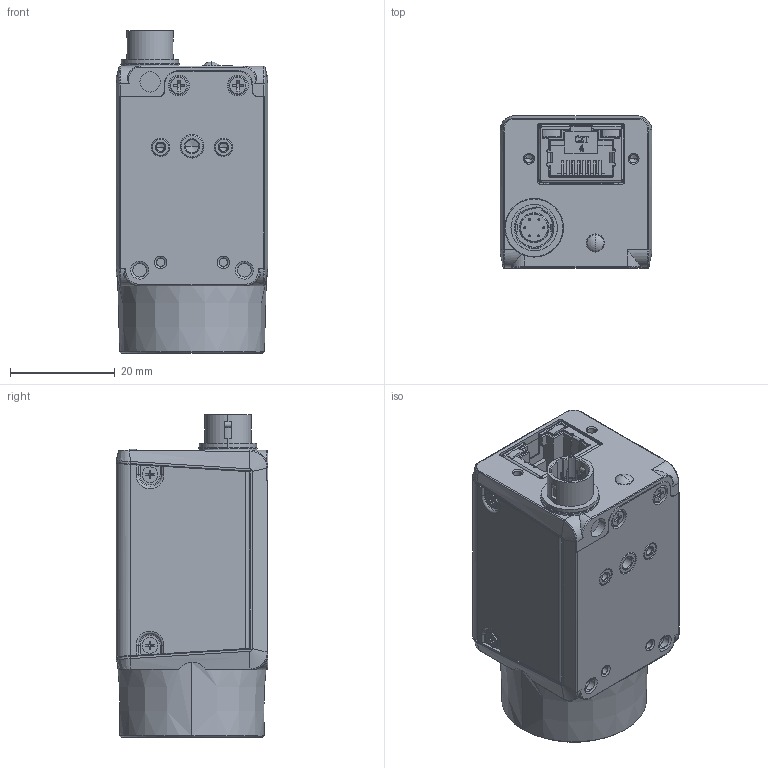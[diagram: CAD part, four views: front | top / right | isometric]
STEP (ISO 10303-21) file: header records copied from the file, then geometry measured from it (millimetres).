
FILE_DESCRIPTION((''),'2;1');
FILE_NAME('DH3-0195-6235_1_1','2023-11-27T09:08:01',('331929'),(''),'CREO PARAMETRIC BY PTC INC, 2020184','CREO PARAMETRIC BY PTC INC, 2020184','');
FILE_SCHEMA(('CONFIG_CONTROL_DESIGN','SHAPE_APPEARANCE_LAYERS_GROUPS'));
Products named in the file (1): DH3-0195-6235_1_1
Bounding box: 29 x 29.05 x 61.7 mm (x, y, z)
Volume: 22857.8 mm3; surface area: 22404.9 mm2
Topology: 1 solids, 11 shells, 1936 faces, 5341 edges, 3370 vertices
Faces by surface type: plane 1021, cylinder 508, bspline 177, cone 135, extrusion 47, torus 40, sphere 8
Entity records: 92248 total; most frequent: CARTESIAN_POINT 26503, ORIENTED_EDGE 10646, DIRECTION 9009, PRESENTATION_STYLE_ASSIGNMENT 5527, STYLED_ITEM 5350, CURVE_STYLE 5323, EDGE_CURVE 5323, VECTOR 3539
